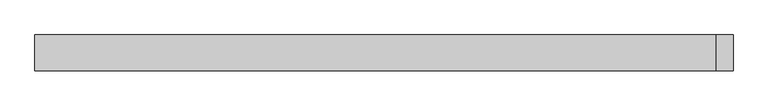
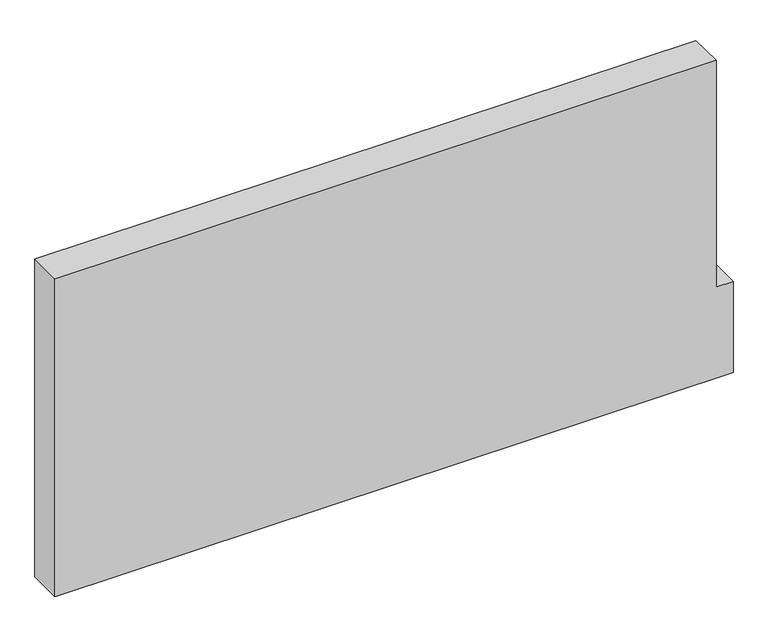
"""IFC4 building model written with IfcOpenShell, lengths in millimetres: plate geometry, Системная панель : Алюкобонд серый."""

from ifc_helpers import new_model, si_unit, frame, origin, place, context, project, spatial, polyline, outline, extrude, source, transform, mapped, element, save


def plate_227f109e(model_context):
    return source(origin(), model_context, "Body", "SweptSolid", [
        extrude(outline(polyline([(0.0, -585.0), (0.0, 585.0), (166.4659379, 585.0), (166.4659379, 555.640473), (580.0, 555.640473), (580.0, -585.0), (0.0, -585.0)])), frame((0.0, -49.5, 0.0), z_axis=(0.0, 1.0, 0.0), x_axis=(0.0, 0.0, 1.0)), (0.0, 0.0, 1.0), 60.0),
    ])


if __name__ == "__main__":
    model = new_model("IFC4")
    model_context = context("Model", 3, world=origin())
    ifc_project = project(units=[si_unit("LENGTHUNIT", "METRE", prefix="MILLI")], contexts=[model_context])
    site = spatial("IfcSite", under=ifc_project)
    building = spatial("IfcBuilding", under=site)
    placement = place(None, origin())
    plate_shape = plate_227f109e(model_context)
    element("IfcPlate", 1, ObjectType="Системная панель : Алюкобонд серый", at=placement, inside=building, context=model_context, shape_type="MappedRepresentation", body=[
        mapped(plate_shape, transform((0.0, 0.0, 0.0), x_axis=(1.0, 0.0, 0.0), y_axis=(0.0, 1.0, 0.0), z_axis=(0.0, 0.0, 1.0))),
    ])
    save(model, "model.ifc")
